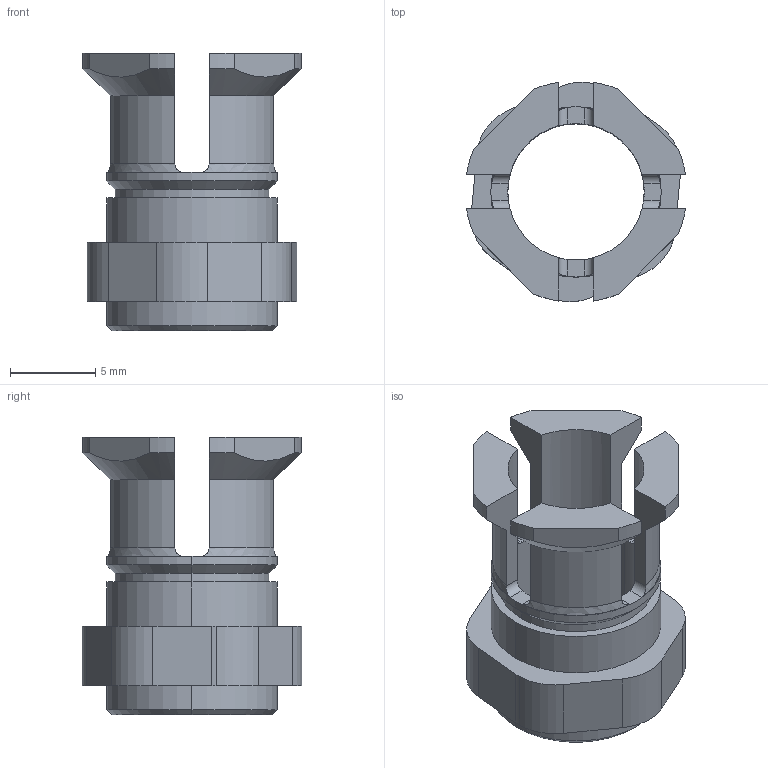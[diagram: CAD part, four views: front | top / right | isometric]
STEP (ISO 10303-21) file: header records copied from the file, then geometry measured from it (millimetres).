
FILE_DESCRIPTION (( 'STEP AP203' ), '1' );
FILE_NAME ('AS_30688.stp', '2021-08-30T03:01:38', ( '' ), ( '' ), 'SwSTEP 2.0', 'SolidWorks 2021', '' );
FILE_SCHEMA (( 'CONFIG_CONTROL_DESIGN' ));
Length unit declared in the file: millimetre
Products named in the file (1): AS_30688
Bounding box: 12.85 x 12.88 x 16.3 mm (x, y, z)
Volume: 594 mm3; surface area: 1351.1 mm2
Topology: 2 solids, 2 shells, 76 faces, 199 edges, 128 vertices
Faces by surface type: cylinder 37, plane 27, cone 8, bspline 4
Entity records: 2554 total; most frequent: CARTESIAN_POINT 604, ORIENTED_EDGE 398, DIRECTION 389, EDGE_CURVE 199, AXIS2_PLACEMENT_3D 145, VERTEX_POINT 128, VECTOR 99, LINE 99
